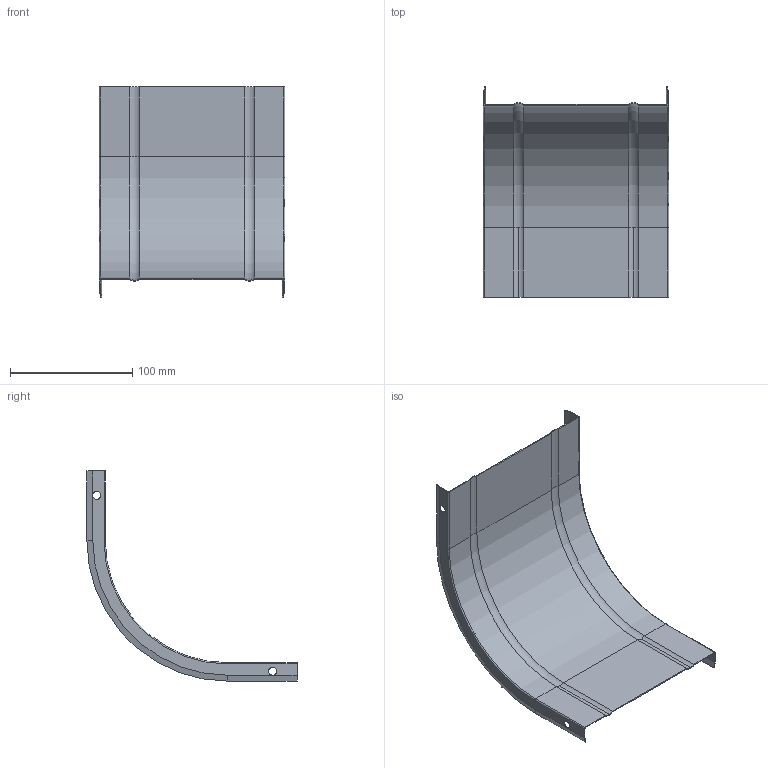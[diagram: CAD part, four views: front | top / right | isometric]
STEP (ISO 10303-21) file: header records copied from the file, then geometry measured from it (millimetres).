
FILE_DESCRIPTION (( 'STEP AP203' ), '1' );
FILE_NAME ('TCCERC 150.STEP', '2020-02-12T11:35:15', ( '' ), ( '' ), 'SwSTEP 2.0', 'SolidWorks 2019', '' );
FILE_SCHEMA (( 'CONFIG_CONTROL_DESIGN' ));
Length unit declared in the file: millimetre
Products named in the file (1): TCCERC 150
Bounding box: 152 x 172 x 172 mm (x, y, z)
Volume: 39591.7 mm3; surface area: 99536.3 mm2
Topology: 1 solids, 1 shells, 78 faces, 220 edges, 136 vertices
Faces by surface type: cylinder 36, plane 30, torus 8, cone 4
Entity records: 2605 total; most frequent: CARTESIAN_POINT 471, DIRECTION 450, ORIENTED_EDGE 440, EDGE_CURVE 220, AXIS2_PLACEMENT_3D 163, VERTEX_POINT 136, VECTOR 124, LINE 124
